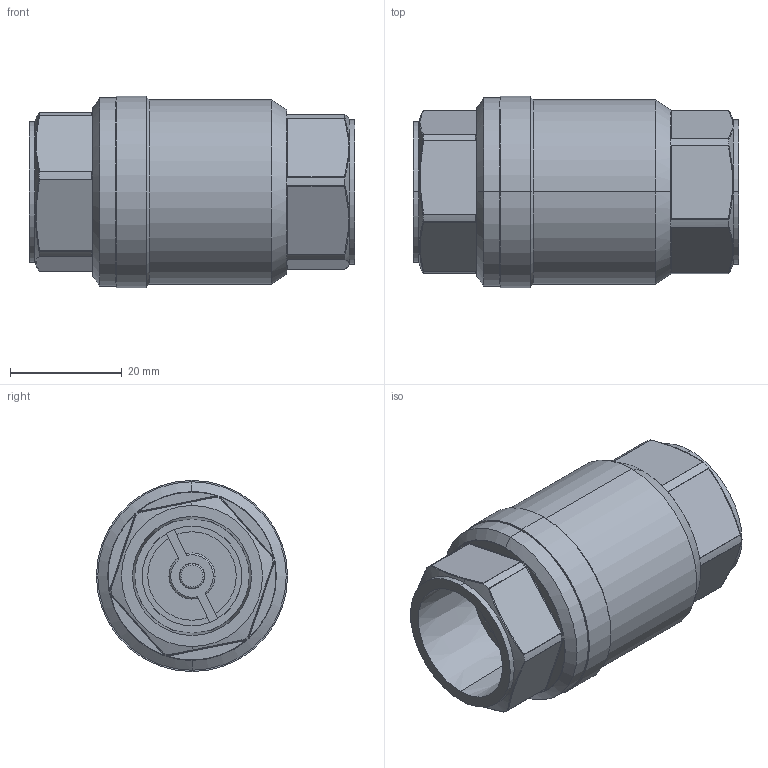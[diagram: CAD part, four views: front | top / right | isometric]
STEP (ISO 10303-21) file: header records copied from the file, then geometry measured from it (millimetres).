
FILE_DESCRIPTION (( 'STEP AP203' ), '1' );
FILE_NAME ('SCI-4.STEP', '2020-03-05T17:10:43', ( '' ), ( '' ), 'SwSTEP 2.0', 'SolidWorks 2017', '' );
FILE_SCHEMA (( 'CONFIG_CONTROL_DESIGN' ));
Length unit declared in the file: inch
Products named in the file (10): SCI-4-SEAT; SCI-4-SPRING; SCI-4-BODY; SCI-4; SCI-4-POPPET
Assembly tree (5 placements, depth 2):
  SCI-4-SEAT
  SCI-4
    SCI-4-SPRING
  SCI-4
    SCI-4-BODY
    SCI-4-POPPET
    SCI-4-SEAT
    SCI-4-SPRING
  SCI-4-BODY
  SCI-4-POPPET
Bounding box: 58.42 x 34.29 x 34.29 mm (x, y, z)
Volume: 16094.4 mm3; surface area: 14352.5 mm2
Topology: 4 solids, 4 shells, 270 faces, 684 edges, 432 vertices
Faces by surface type: cylinder 107, bspline 62, plane 61, torus 24, cone 16
Entity records: 13249 total; most frequent: CARTESIAN_POINT 6254, ORIENTED_EDGE 1366, DIRECTION 1163, EDGE_CURVE 683, AXIS2_PLACEMENT_3D 486, VERTEX_POINT 430, EDGE_LOOP 291, ADVANCED_FACE 270
